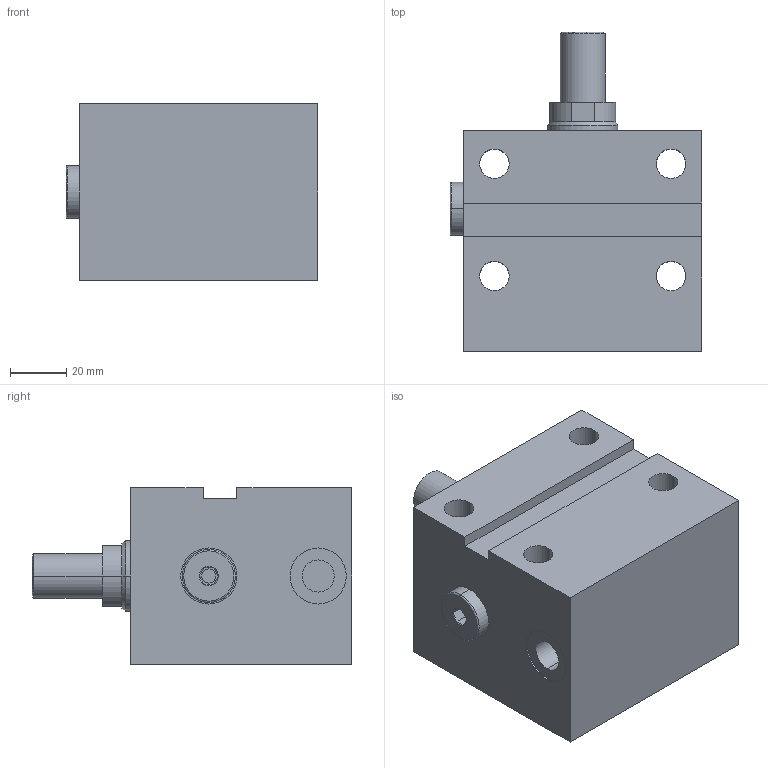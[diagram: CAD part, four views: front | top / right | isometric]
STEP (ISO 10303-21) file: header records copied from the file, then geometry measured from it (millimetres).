
FILE_DESCRIPTION (( 'STEP AP203' ), '1' );
FILE_NAME ('GERMA_Blockzylinder_651-040-010-A.STEP', '2023-08-26T15:42:28', ( '' ), ( '' ), 'SwSTEP 2.0', 'SolidWorks 2016', '' );
FILE_SCHEMA (( 'CONFIG_CONTROL_DESIGN' ));
Length unit declared in the file: millimetre
Products named in the file (3): Kolben 60x-040_Kolben DU.40-Hub25-AG; GH-600-040-ew_GH-651-040-010; GERMA_Blockzylinder_651-040-010-A
Assembly tree (2 placements, depth 2):
  GERMA_Blockzylinder_651-040-010-A
    GH-600-040-ew_GH-651-040-010
    Kolben 60x-040_Kolben DU.40-Hub25-AG
Bounding box: 89.8 x 114 x 63 mm (x, y, z)
Volume: 396370.6 mm3; surface area: 62295.5 mm2
Topology: 2 solids, 2 shells, 95 faces, 217 edges, 137 vertices
Faces by surface type: cylinder 39, plane 35, cone 19, torus 2
Entity records: 3037 total; most frequent: CARTESIAN_POINT 513, DIRECTION 506, ORIENTED_EDGE 426, EDGE_CURVE 213, AXIS2_PLACEMENT_3D 200, VERTEX_POINT 137, EDGE_LOOP 118, LINE 106
